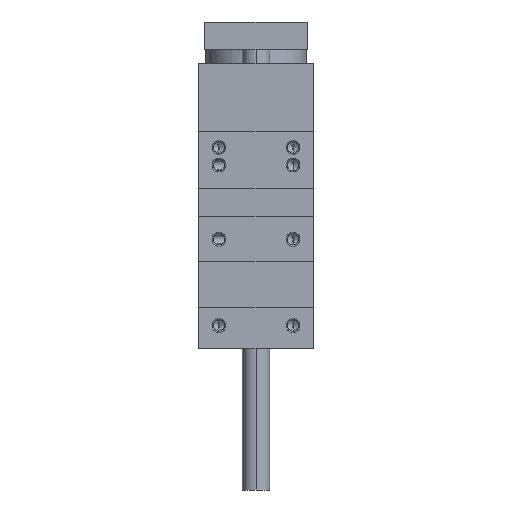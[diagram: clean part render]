
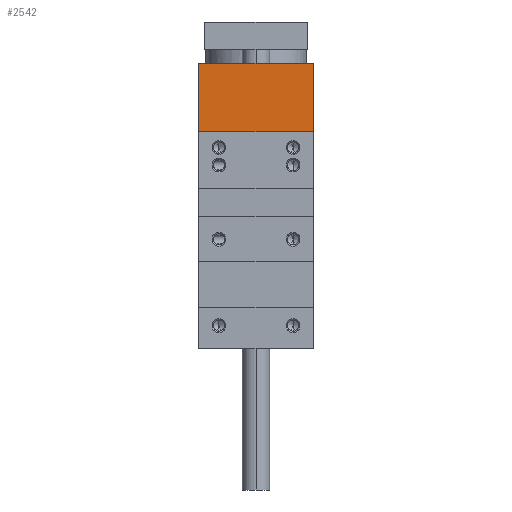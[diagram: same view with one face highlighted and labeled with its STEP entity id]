
A CAD part, left-side view. The second image highlights one B-rep face of the part: STEP entity #2542.
In plain terms, the highlighted planar face has unit normal (-1, 0, 0).
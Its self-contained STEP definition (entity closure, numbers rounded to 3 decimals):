
#446 = DIRECTION ( 'NONE',  ( 0., 1., 0. ) ) ;
#653 = EDGE_CURVE ( 'NONE', #6208, #3198, #3397, .T. ) ;
#1045 = CARTESIAN_POINT ( 'NONE',  ( -48.2, 25., 0. ) ) ;
#1694 = LINE ( 'NONE', #1045, #3053 ) ;
#1983 = ORIENTED_EDGE ( 'NONE', *, *, #8185, .F. ) ;
#2150 = CARTESIAN_POINT ( 'NONE',  ( -48.2, -25., 49. ) ) ;
#2542 = ADVANCED_FACE ( 'NONE', ( #10653 ), #10034, .F. ) ;
#3053 = VECTOR ( 'NONE', #6185, 1000. ) ;
#3198 = VERTEX_POINT ( 'NONE', #2150 ) ;
#3397 = LINE ( 'NONE', #4127, #6958 ) ;
#3770 = CARTESIAN_POINT ( 'NONE',  ( -48.2, 50., 19. ) ) ;
#3926 = EDGE_LOOP ( 'NONE', ( #5553, #5529, #1983, #10151 ) ) ;
#4065 = EDGE_CURVE ( 'NONE', #6208, #6967, #1694, .T. ) ;
#4127 = CARTESIAN_POINT ( 'NONE',  ( -48.2, 50., 49. ) ) ;
#4428 = CARTESIAN_POINT ( 'NONE',  ( -48.2, 25., 49. ) ) ;
#4467 = CARTESIAN_POINT ( 'NONE',  ( -48.2, -25., 19. ) ) ;
#4967 = CARTESIAN_POINT ( 'NONE',  ( -48.2, -25., 0. ) ) ;
#5393 = CARTESIAN_POINT ( 'NONE',  ( -48.2, 25., 19. ) ) ;
#5529 = ORIENTED_EDGE ( 'NONE', *, *, #5907, .T. ) ;
#5553 = ORIENTED_EDGE ( 'NONE', *, *, #4065, .T. ) ;
#5907 = EDGE_CURVE ( 'NONE', #6967, #7871, #10869, .T. ) ;
#6185 = DIRECTION ( 'NONE',  ( 0., 0., -1. ) ) ;
#6208 = VERTEX_POINT ( 'NONE', #4428 ) ;
#6958 = VECTOR ( 'NONE', #7733, 1000. ) ;
#6967 = VERTEX_POINT ( 'NONE', #5393 ) ;
#7624 = DIRECTION ( 'NONE',  ( 0., 0., -1. ) ) ;
#7733 = DIRECTION ( 'NONE',  ( 0., -1., 0. ) ) ;
#7871 = VERTEX_POINT ( 'NONE', #4467 ) ;
#8185 = EDGE_CURVE ( 'NONE', #3198, #7871, #9372, .T. ) ;
#8467 = VECTOR ( 'NONE', #10083, 1000. ) ;
#8711 = VECTOR ( 'NONE', #7624, 1000. ) ;
#8950 = DIRECTION ( 'NONE',  ( 1., 0., 0. ) ) ;
#9372 = LINE ( 'NONE', #4967, #8711 ) ;
#10034 = PLANE ( 'NONE',  #11157 ) ;
#10083 = DIRECTION ( 'NONE',  ( 0., -1., 0. ) ) ;
#10151 = ORIENTED_EDGE ( 'NONE', *, *, #653, .F. ) ;
#10653 = FACE_OUTER_BOUND ( 'NONE', #3926, .T. ) ;
#10869 = LINE ( 'NONE', #10925, #8467 ) ;
#10925 = CARTESIAN_POINT ( 'NONE',  ( -48.2, 50., 19. ) ) ;
#11157 = AXIS2_PLACEMENT_3D ( 'NONE', #3770, #8950, #446 ) ;
